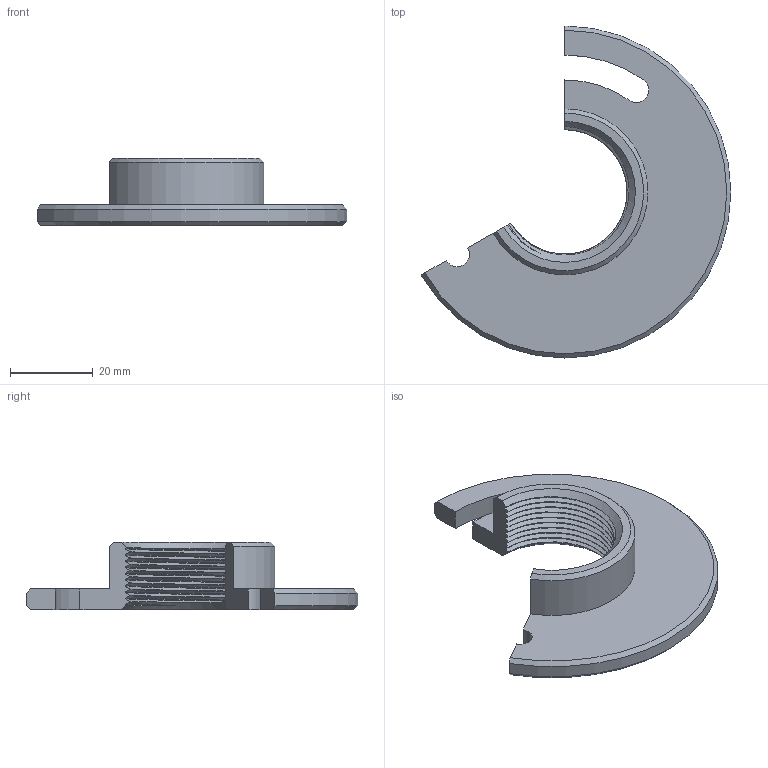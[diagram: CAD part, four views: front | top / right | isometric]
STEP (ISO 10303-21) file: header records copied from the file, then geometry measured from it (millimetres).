
FILE_DESCRIPTION(/* description */ ('CAx-IF Rec.Pracs.---Representation and Presentation of Product Manufacturing Information (PMI)---4.0---2014-10-13','CAx-IF Rec.Pracs.---3D Tessellated Geometry---0.4---2014-09-14','2;1'),/* implementation_level */ '2;1');
FILE_NAME(/* name */ 'czesc_gwintowana_NK_section',/* time_stamp */ '2020-03-20T17:32:56+01:00',/* author */ (''),/* organization */ (''),/* preprocessor_version */ 'ST-DEVELOPER v16.7',/* originating_system */ 'SIEMENS PLM Software NX 1847',/* authorisation */ $);
FILE_SCHEMA (('AP242_MANAGED_MODEL_BASED_3D_ENGINEERING_MIM_LF { 1 0 10303 442 1 1 4 }'));
Length unit declared in the file: millimetre
Products named in the file (1): czesc_gwintowana_NK_section
Bounding box: 74.64 x 80 x 16.24 mm (x, y, z)
Volume: 16904.2 mm3; surface area: 9110.6 mm2
Topology: 1 solids, 1 shells, 59 faces, 171 edges, 114 vertices
Faces by surface type: cylinder 26, bspline 21, plane 7, cone 5
Entity records: 3353 total; most frequent: CARTESIAN_POINT 1480, ORIENTED_EDGE 342, DIRECTION 203, EDGE_CURVE 171, VERTEX_POINT 114, B_SPLINE_CURVE_WITH_KNOTS 82, AXIS2_PLACEMENT_3D 75, LINE 69
